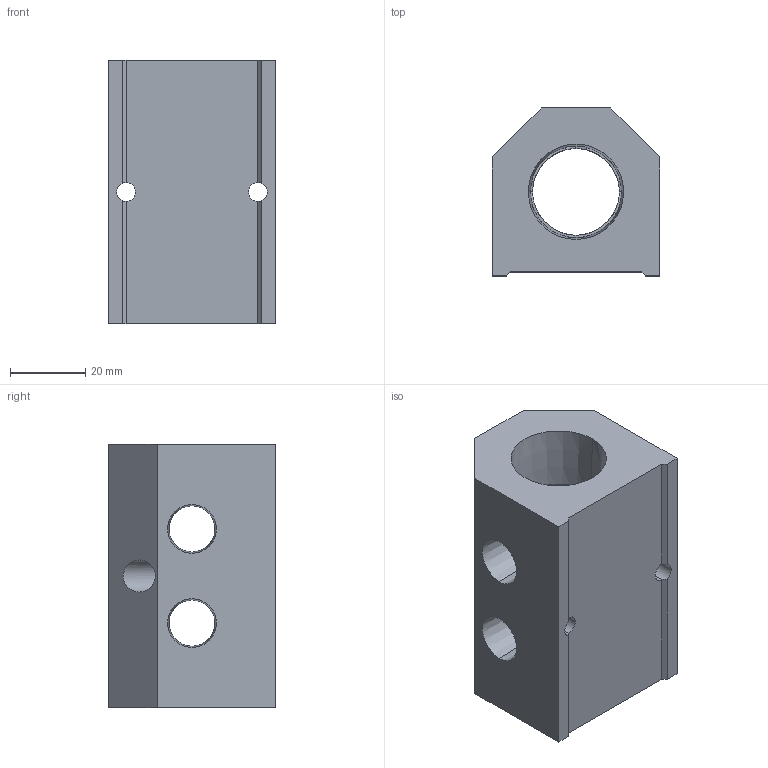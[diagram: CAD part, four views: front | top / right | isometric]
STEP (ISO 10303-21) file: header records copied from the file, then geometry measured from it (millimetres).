
FILE_DESCRIPTION (( 'STEP AP214' ), '1' );
FILE_NAME ('ALM2ACE-N4N12-70B.step', '2022-02-06T14:10:19', ( '' ), ( '' ), 'SwSTEP 2.0', 'SolidWorks 2020', '' );
FILE_SCHEMA (( 'AUTOMOTIVE_DESIGN' ));
Length unit declared in the file: millimetre
Products named in the file (1): ALM2ACE-N4N12-70B
Bounding box: 44.5 x 44.5 x 70 mm (x, y, z)
Volume: 82846.8 mm3; surface area: 21630.2 mm2
Topology: 1 solids, 1 shells, 294 faces, 795 edges, 526 vertices
Faces by surface type: plane 210, bspline 46, cone 22, cylinder 16
Entity records: 13045 total; most frequent: CARTESIAN_POINT 5806, ORIENTED_EDGE 1590, DIRECTION 1185, EDGE_CURVE 795, VECTOR 583, LINE 583, VERTEX_POINT 526, EDGE_LOOP 335
